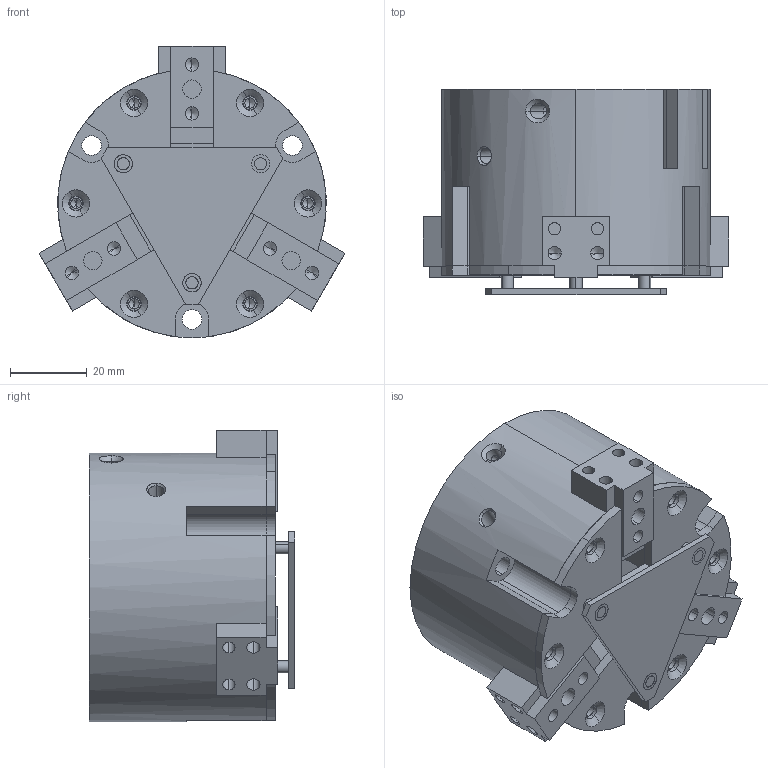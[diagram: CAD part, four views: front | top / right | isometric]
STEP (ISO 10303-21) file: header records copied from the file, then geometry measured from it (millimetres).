
FILE_DESCRIPTION (( 'STEP AP203' ), '1' );
FILE_NAME ('AGP-43 OPEN in IN.STEP', '2014-11-05T14:14:47', ( 'setup' ), ( '' ), 'SwSTEP 2.0', 'SolidWorks 2013', '' );
FILE_SCHEMA (( 'CONFIG_CONTROL_DESIGN' ));
Length unit declared in the file: inch
Products named in the file (7): AGP-43 BUSHING; AGP-43 OPEN in IN; AGP-43 BODY; AGP-43 CAP; AGP-43 JAW; AGP-43 PIN; AGP-43 STRIPPER
Assembly tree (12 placements, depth 2):
  AGP-43 OPEN in IN
    AGP-43 BODY
    AGP-43 CAP
    AGP-43 JAW  x3
    AGP-43 PIN  x3
    AGP-43 STRIPPER
    AGP-43 BUSHING  x3
Bounding box: 79.56 x 53.43 x 75.82 mm (x, y, z)
Volume: 169116.4 mm3; surface area: 41428.3 mm2
Topology: 12 solids, 12 shells, 325 faces, 791 edges, 487 vertices
Faces by surface type: cylinder 140, plane 127, cone 54, bspline 4
Entity records: 8161 total; most frequent: CARTESIAN_POINT 1619, DIRECTION 1245, ORIENTED_EDGE 1106, EDGE_CURVE 553, AXIS2_PLACEMENT_3D 464, VERTEX_POINT 359, VECTOR 317, LINE 317
